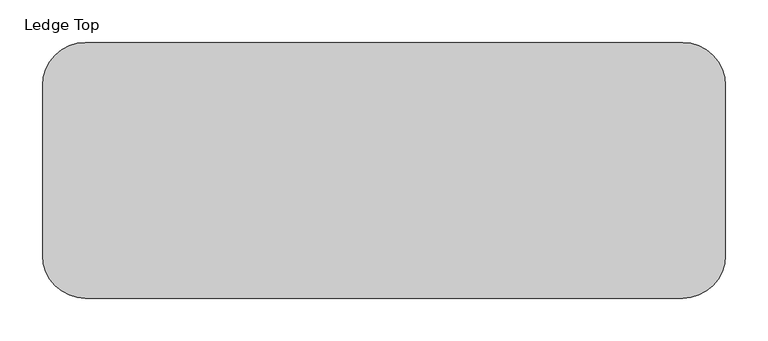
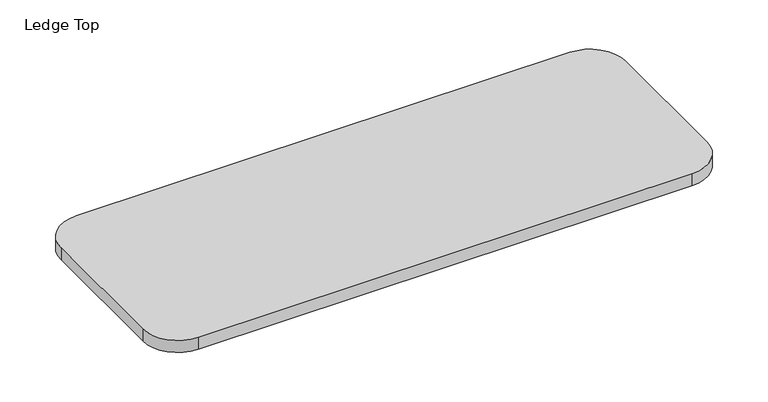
"""IFC4 building model written with IfcOpenShell, lengths in millimetres: furniture geometry, DBLTD_Sixteen3_PrivacyScreens_Artus_Desk : Ledge Top."""

from ifc_helpers import new_model, si_unit, point, frame, frame_2d, origin, place, context, project, spatial, polyline, circle_curve, trimmed, segment, composite_curve, outline, extrude, source, transform, mapped, element, save


def ledge_top_460520a5(model_context):
    return source(origin(), model_context, "Body", "SweptSolid", [
        extrude(outline(composite_curve([segment(trimmed(circle_curve(frame_2d((350.0, 920.0)), 50.0), [point((350.0, 970.0))], [point((400.0, 920.0))], False, "CARTESIAN"), True, "CONTINUOUS"), segment(polyline([(400.0, 920.0), (400.0, 720.0)]), True, "CONTINUOUS"), segment(trimmed(circle_curve(frame_2d((350.0, 720.0)), 50.0), [point((400.0, 720.0))], [point((350.0, 670.0))], False, "CARTESIAN"), True, "CONTINUOUS"), segment(polyline([(350.0, 670.0), (-350.0, 670.0)]), True, "CONTINUOUS"), segment(trimmed(circle_curve(frame_2d((-350.0, 720.0)), 50.0), [point((-350.0, 670.0))], [point((-400.0, 720.0))], False, "CARTESIAN"), True, "CONTINUOUS"), segment(polyline([(-400.0, 720.0), (-400.0, 920.0)]), True, "CONTINUOUS"), segment(trimmed(circle_curve(frame_2d((-350.0, 920.0)), 50.0), [point((-400.0, 920.0))], [point((-350.0, 970.0))], False, "CARTESIAN"), True, "CONTINUOUS"), segment(polyline([(-350.0, 970.0), (350.0, 970.0)]), True, "CONTINUOUS")], self_intersect=False)), frame((0.0, 0.0, 1082.0), z_axis=(0.0, 0.0, 1.0), x_axis=(1.0, 0.0, 0.0)), (0.0, 0.0, 1.0), 18.0),
    ])


if __name__ == "__main__":
    model = new_model("IFC4")
    model_context = context("Model", 3, world=origin())
    ifc_project = project(units=[si_unit("LENGTHUNIT", "METRE", prefix="MILLI")], contexts=[model_context])
    site = spatial("IfcSite", under=ifc_project)
    building = spatial("IfcBuilding", under=site)
    placement = place(None, origin())
    ledge_top_shape = ledge_top_460520a5(model_context)
    element("IfcFurniture", 1, ObjectType="DBLTD_Sixteen3_PrivacyScreens_Artus_Desk : Ledge Top", at=placement, inside=building, context=model_context, shape_type="MappedRepresentation", body=[
        mapped(ledge_top_shape, transform((0.0, 0.0, 0.0), x_axis=(1.0, 0.0, 0.0), y_axis=(0.0, 1.0, 0.0), z_axis=(0.0, 0.0, 1.0))),
    ])
    save(model, "model.ifc")
